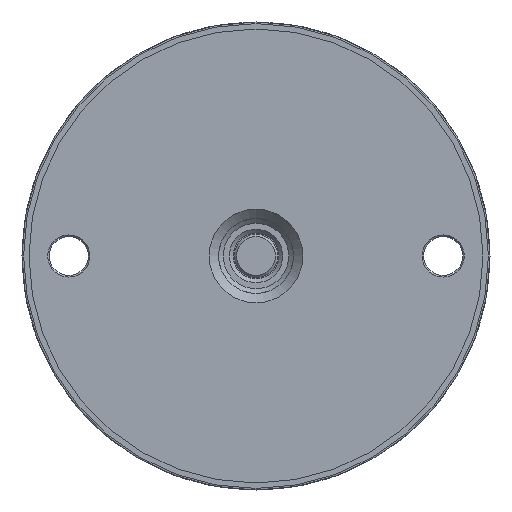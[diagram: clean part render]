
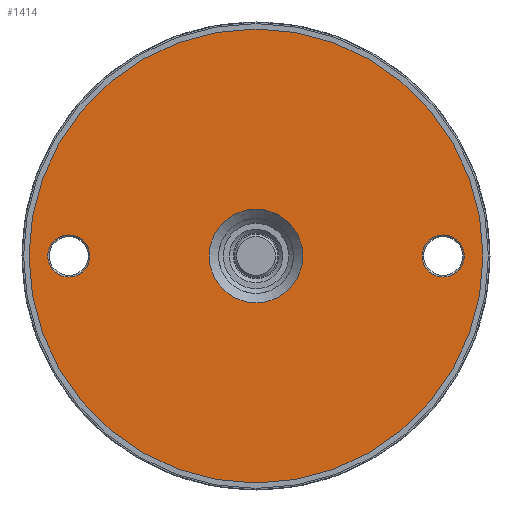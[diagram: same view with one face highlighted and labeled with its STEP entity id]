
A CAD part, left-side view. The second image highlights one B-rep face of the part: STEP entity #1414.
In plain terms, the highlighted planar face has unit normal (-1, 0, 0).
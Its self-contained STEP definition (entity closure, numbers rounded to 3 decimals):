
#1092=CARTESIAN_POINT('',(-525.136,-560.859,0.0));
#1093=VERTEX_POINT('',#1092);
#1100=CARTESIAN_POINT('',(-525.136,-415.359,0.0));
#1101=VERTEX_POINT('',#1100);
#1102=CARTESIAN_POINT('',(-525.136,-488.109,0.0));
#1103=DIRECTION('',(-1.0,0.0,0.0));
#1104=DIRECTION('',(0.0,-1.0,0.0));
#1105=AXIS2_PLACEMENT_3D('',#1102,#1103,#1104);
#1106=CIRCLE('',#1105,72.75);
#1107=EDGE_CURVE('',#1101,#1093,#1106,.T.);
#1109=CARTESIAN_POINT('',(-525.136,-488.109,0.0));
#1110=DIRECTION('',(-1.0,0.0,0.0));
#1111=DIRECTION('',(0.0,-1.0,0.0));
#1112=AXIS2_PLACEMENT_3D('',#1109,#1110,#1111);
#1113=CIRCLE('',#1112,72.75);
#1114=EDGE_CURVE('',#1093,#1101,#1113,.T.);
#1333=CARTESIAN_POINT('',(-525.136,-503.109,0.0));
#1334=VERTEX_POINT('',#1333);
#1341=CARTESIAN_POINT('',(-525.136,-473.109,0.0));
#1342=VERTEX_POINT('',#1341);
#1343=CARTESIAN_POINT('',(-525.136,-488.109,0.0));
#1344=DIRECTION('',(-1.0,0.0,0.0));
#1345=DIRECTION('',(0.0,-1.0,0.0));
#1346=AXIS2_PLACEMENT_3D('',#1343,#1344,#1345);
#1347=CIRCLE('',#1346,15.0);
#1348=EDGE_CURVE('',#1334,#1342,#1347,.T.);
#1350=CARTESIAN_POINT('',(-525.136,-488.109,0.0));
#1351=DIRECTION('',(-1.0,0.0,0.0));
#1352=DIRECTION('',(0.0,-1.0,0.0));
#1353=AXIS2_PLACEMENT_3D('',#1350,#1351,#1352);
#1354=CIRCLE('',#1353,15.0);
#1355=EDGE_CURVE('',#1342,#1334,#1354,.T.);
#1361=CARTESIAN_POINT('',(-525.136,-400.809,-87.3));
#1362=DIRECTION('',(-1.0,0.0,0.0));
#1363=DIRECTION('',(0.0,-1.0,0.0));
#1364=AXIS2_PLACEMENT_3D('',#1361,#1362,#1363);
#1365=PLANE('',#1364);
#1366=ORIENTED_EDGE('',*,*,#1114,.T.);
#1367=ORIENTED_EDGE('',*,*,#1107,.T.);
#1368=EDGE_LOOP('',(#1366,#1367));
#1369=FACE_OUTER_BOUND('',#1368,.T.);
#1370=ORIENTED_EDGE('',*,*,#1355,.F.);
#1371=ORIENTED_EDGE('',*,*,#1348,.F.);
#1372=EDGE_LOOP('',(#1370,#1371));
#1373=FACE_BOUND('',#1372,.T.);
#1374=CARTESIAN_POINT('',(-525.136,-421.359,0.));
#1375=VERTEX_POINT('',#1374);
#1376=CARTESIAN_POINT('',(-525.136,-434.859,0.));
#1377=VERTEX_POINT('',#1376);
#1378=CARTESIAN_POINT('',(-525.136,-428.109,0.));
#1379=DIRECTION('',(-1.0,0.0,0.0));
#1380=DIRECTION('',(0.0,-1.0,0.0));
#1381=AXIS2_PLACEMENT_3D('',#1378,#1379,#1380);
#1382=CIRCLE('',#1381,6.75);
#1383=EDGE_CURVE('',#1375,#1377,#1382,.T.);
#1384=ORIENTED_EDGE('',*,*,#1383,.F.);
#1385=CARTESIAN_POINT('',(-525.136,-428.109,0.));
#1386=DIRECTION('',(-1.0,0.0,0.0));
#1387=DIRECTION('',(0.0,-1.0,0.0));
#1388=AXIS2_PLACEMENT_3D('',#1385,#1386,#1387);
#1389=CIRCLE('',#1388,6.75);
#1390=EDGE_CURVE('',#1377,#1375,#1389,.T.);
#1391=ORIENTED_EDGE('',*,*,#1390,.F.);
#1392=EDGE_LOOP('',(#1384,#1391));
#1393=FACE_BOUND('',#1392,.T.);
#1394=CARTESIAN_POINT('',(-525.136,-541.359,0.));
#1395=VERTEX_POINT('',#1394);
#1396=CARTESIAN_POINT('',(-525.136,-554.859,0.));
#1397=VERTEX_POINT('',#1396);
#1398=CARTESIAN_POINT('',(-525.136,-548.109,0.));
#1399=DIRECTION('',(-1.0,0.0,0.0));
#1400=DIRECTION('',(0.0,-1.0,0.0));
#1401=AXIS2_PLACEMENT_3D('',#1398,#1399,#1400);
#1402=CIRCLE('',#1401,6.75);
#1403=EDGE_CURVE('',#1395,#1397,#1402,.T.);
#1404=ORIENTED_EDGE('',*,*,#1403,.F.);
#1405=CARTESIAN_POINT('',(-525.136,-548.109,0.));
#1406=DIRECTION('',(-1.0,0.0,0.0));
#1407=DIRECTION('',(0.0,-1.0,0.0));
#1408=AXIS2_PLACEMENT_3D('',#1405,#1406,#1407);
#1409=CIRCLE('',#1408,6.75);
#1410=EDGE_CURVE('',#1397,#1395,#1409,.T.);
#1411=ORIENTED_EDGE('',*,*,#1410,.F.);
#1412=EDGE_LOOP('',(#1404,#1411));
#1413=FACE_BOUND('',#1412,.T.);
#1414=ADVANCED_FACE('',(#1369,#1373,#1393,#1413),#1365,.T.);
